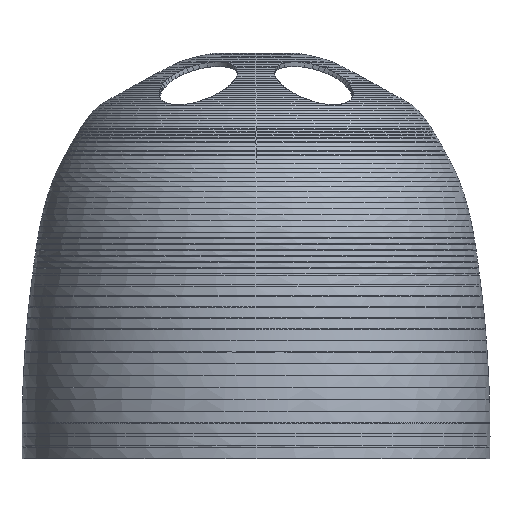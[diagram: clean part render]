
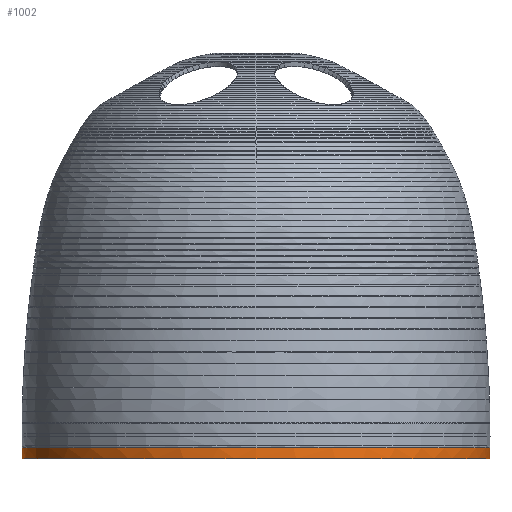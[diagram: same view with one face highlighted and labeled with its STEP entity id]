
A CAD part, left-side view. The second image highlights one B-rep face of the part: STEP entity #1002.
In plain terms, the highlighted free-form (B-spline) face has degree [2, 1] with [5, 2] control points.
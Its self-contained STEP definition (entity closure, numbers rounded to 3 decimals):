
#1002=ADVANCED_FACE('',(#2126),#15849,.T.);
#2126=FACE_OUTER_BOUND('',#3267,.T.);
#3267=EDGE_LOOP('',(#7476,#7477,#7478,#7479,#7480,#7481));
#7476=ORIENTED_EDGE('',*,*,#10908,.T.);
#7477=ORIENTED_EDGE('',*,*,#10345,.F.);
#7478=ORIENTED_EDGE('',*,*,#10633,.T.);
#7479=ORIENTED_EDGE('',*,*,#10635,.F.);
#7480=ORIENTED_EDGE('',*,*,#10459,.T.);
#7481=ORIENTED_EDGE('',*,*,#10632,.T.);
#10345=EDGE_CURVE('',#14615,#14616,#11553,.T.);
#10459=EDGE_CURVE('',#14737,#14677,#13239,.T.);
#10632=EDGE_CURVE('',#14677,#14858,#13323,.T.);
#10633=EDGE_CURVE('',#14615,#14738,#11705,.T.);
#10635=EDGE_CURVE('',#14737,#14738,#13324,.T.);
#10908=EDGE_CURVE('',#14858,#14616,#13484,.T.);
#11553=(
BOUNDED_CURVE()
B_SPLINE_CURVE(2,(#44628,#44629,#44630,#44631,#44632),.UNSPECIFIED.,.F.,
 .F.)
B_SPLINE_CURVE_WITH_KNOTS((3,2,3),(0.,378.243,381.422),
 .UNSPECIFIED.)
CURVE()
GEOMETRIC_REPRESENTATION_ITEM()
RATIONAL_B_SPLINE_CURVE((1.,0.71,0.995,0.999,
1.))
REPRESENTATION_ITEM('')
);
#11705=(
BOUNDED_CURVE()
B_SPLINE_CURVE(2,(#49999,#50000,#50001,#50002,#50003),.UNSPECIFIED.,.F.,
 .F.)
B_SPLINE_CURVE_WITH_KNOTS((3,2,3),(0.,378.243,381.422),
 .UNSPECIFIED.)
CURVE()
GEOMETRIC_REPRESENTATION_ITEM()
RATIONAL_B_SPLINE_CURVE((1.,0.71,0.995,0.999,
1.))
REPRESENTATION_ITEM('')
);
#13239=B_SPLINE_CURVE_WITH_KNOTS('',3,(#46827,#46828,#46829,#46830,#46831,
#46832,#46833,#46834,#46835,#46836),.UNSPECIFIED.,.F.,.F.,(4,2,2,2,4),(-303.134,
-227.35,-151.567,-75.783,0.),.UNSPECIFIED.);
#13323=B_SPLINE_CURVE_WITH_KNOTS('',3,(#49989,#49990,#49991,#49992,#49993,
#49994,#49995,#49996,#49997,#49998),.UNSPECIFIED.,.F.,.F.,(4,2,2,2,4),(0.,
75.783,151.567,227.35,303.134),
 .UNSPECIFIED.);
#13324=B_SPLINE_CURVE_WITH_KNOTS('',1,(#50009,#50010),.UNSPECIFIED.,.F.,
 .F.,(2,2),(1.669,10.413),.UNSPECIFIED.);
#13484=B_SPLINE_CURVE_WITH_KNOTS('',1,(#52728,#52729),.UNSPECIFIED.,.F.,
 .F.,(2,2),(1.669,10.413),.UNSPECIFIED.);
#14615=VERTEX_POINT('',#34181);
#14616=VERTEX_POINT('',#34182);
#14677=VERTEX_POINT('',#34243);
#14737=VERTEX_POINT('',#34303);
#14738=VERTEX_POINT('',#34304);
#14858=VERTEX_POINT('',#34424);
#15849=(
BOUNDED_SURFACE()
B_SPLINE_SURFACE(2,1,((#31128,#31129),(#31130,#31131),(#31132,#31133),(#31134,
#31135),(#31136,#31137)),.UNSPECIFIED.,.F.,.F.,.F.)
B_SPLINE_SURFACE_WITH_KNOTS((3,2,3),(2,2),(0.,301.35,602.699),
(0.,12.082),.UNSPECIFIED.)
GEOMETRIC_REPRESENTATION_ITEM()
RATIONAL_B_SPLINE_SURFACE(((1.,1.),(0.707,0.707),
(1.,1.),(0.707,0.707),(1.,1.)))
REPRESENTATION_ITEM('')
SURFACE()
);
#31128=CARTESIAN_POINT('',(3.,191.74,-1.668));
#31129=CARTESIAN_POINT('',(3.,191.845,10.413));
#31130=CARTESIAN_POINT('',(-188.74,191.74,-1.668));
#31131=CARTESIAN_POINT('',(-188.845,191.845,10.413));
#31132=CARTESIAN_POINT('',(-188.74,0.,-1.668));
#31133=CARTESIAN_POINT('',(-188.845,0.,10.413));
#31134=CARTESIAN_POINT('',(-188.74,-191.74,-1.668));
#31135=CARTESIAN_POINT('',(-188.845,-191.845,10.413));
#31136=CARTESIAN_POINT('',(3.,-191.74,-1.668));
#31137=CARTESIAN_POINT('',(3.,-191.845,10.413));
#34181=CARTESIAN_POINT('',(-188.831,0.,8.745));
#34182=CARTESIAN_POINT('',(3.,-191.831,8.745));
#34243=CARTESIAN_POINT('',(-188.754,0.,0.));
#34303=CARTESIAN_POINT('',(3.,191.754,0.));
#34304=CARTESIAN_POINT('',(3.,191.831,8.745));
#34424=CARTESIAN_POINT('',(3.,-191.754,0.));
#44628=CARTESIAN_POINT('',(-188.831,0.,8.745));
#44629=CARTESIAN_POINT('',(-188.831,-189.578,8.745));
#44630=CARTESIAN_POINT('',(0.734,-191.817,8.745));
#44631=CARTESIAN_POINT('',(1.867,-191.831,8.745));
#44632=CARTESIAN_POINT('',(3.,-191.831,8.745));
#46827=CARTESIAN_POINT('',(3.,191.754,0.));
#46828=CARTESIAN_POINT('',(-22.101,191.754,0.));
#46829=CARTESIAN_POINT('',(-47.191,186.763,0.));
#46830=CARTESIAN_POINT('',(-93.571,167.552,0.));
#46831=CARTESIAN_POINT('',(-114.842,153.34,0.));
#46832=CARTESIAN_POINT('',(-150.34,117.842,0.));
#46833=CARTESIAN_POINT('',(-164.552,96.571,0.));
#46834=CARTESIAN_POINT('',(-183.763,50.191,0.));
#46835=CARTESIAN_POINT('',(-188.754,25.101,0.));
#46836=CARTESIAN_POINT('',(-188.754,0.,0.));
#49989=CARTESIAN_POINT('',(-188.754,0.,0.));
#49990=CARTESIAN_POINT('',(-188.754,-25.101,0.));
#49991=CARTESIAN_POINT('',(-183.763,-50.191,0.));
#49992=CARTESIAN_POINT('',(-164.552,-96.571,0.));
#49993=CARTESIAN_POINT('',(-150.34,-117.842,0.));
#49994=CARTESIAN_POINT('',(-114.842,-153.34,0.));
#49995=CARTESIAN_POINT('',(-93.571,-167.552,0.));
#49996=CARTESIAN_POINT('',(-47.191,-186.763,0.));
#49997=CARTESIAN_POINT('',(-22.101,-191.754,0.));
#49998=CARTESIAN_POINT('',(3.,-191.754,0.));
#49999=CARTESIAN_POINT('',(-188.831,0.,8.745));
#50000=CARTESIAN_POINT('',(-188.831,189.578,8.745));
#50001=CARTESIAN_POINT('',(0.734,191.817,8.745));
#50002=CARTESIAN_POINT('',(1.867,191.831,8.745));
#50003=CARTESIAN_POINT('',(3.,191.831,8.745));
#50009=CARTESIAN_POINT('',(3.,191.754,0.));
#50010=CARTESIAN_POINT('',(3.,191.831,8.745));
#52728=CARTESIAN_POINT('',(3.,-191.754,0.));
#52729=CARTESIAN_POINT('',(3.,-191.831,8.745));
